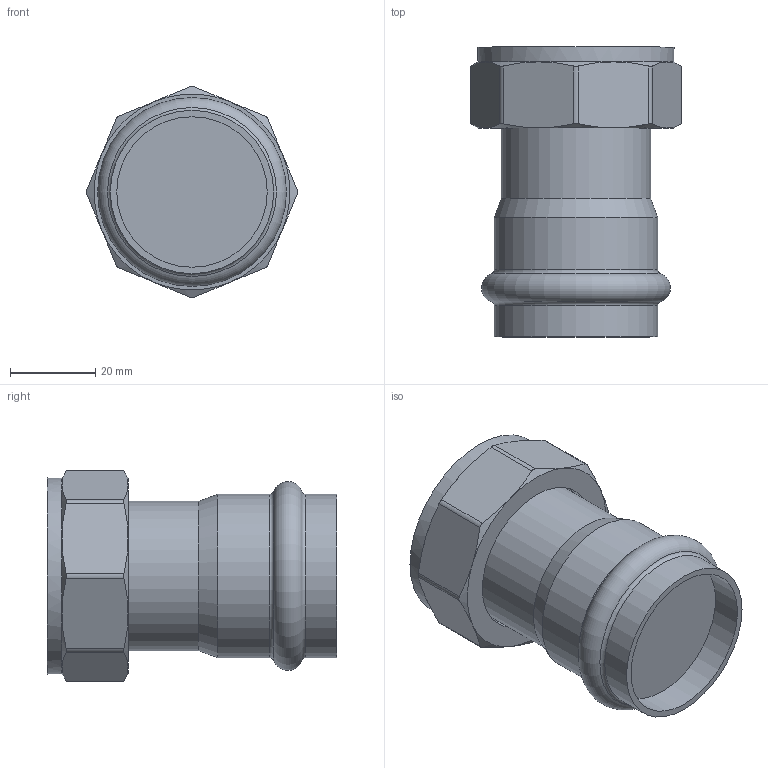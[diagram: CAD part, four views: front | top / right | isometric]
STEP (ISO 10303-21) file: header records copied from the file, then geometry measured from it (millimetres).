
FILE_DESCRIPTION(('STEP AP203'), '1');
FILE_NAME('VTi.908.I.003507', '', ('UNSPECIFIED'), ('UNSPECIFIED'), 'C3D Converter', 'C3D Toolkit', '');
FILE_SCHEMA(('CONFIG_CONTROL_DESIGN'));
Length unit declared in the file: millimetre
Bounding box: 49.54 x 68 x 49.54 mm (x, y, z)
Volume: 67511 mm3; surface area: 15311.9 mm2
Topology: 1 solids, 1 shells, 50 faces, 110 edges, 66 vertices
Faces by surface type: cone 18, cylinder 15, plane 14, torus 3
Full cylindrical faces by diameter (mm): 35 x1, 35.3 x1, 36 x1, 38.3 x2, 38.953 x1, 46 x1
Entity records: 2564 total; most frequent: CARTESIAN_POINT 1543, ORIENTED_EDGE 196, DIRECTION 186, EDGE_CURVE 98, AXIS2_PLACEMENT_3D 85, EDGE_LOOP 66, VERTEX_POINT 66, ADVANCED_FACE 50
